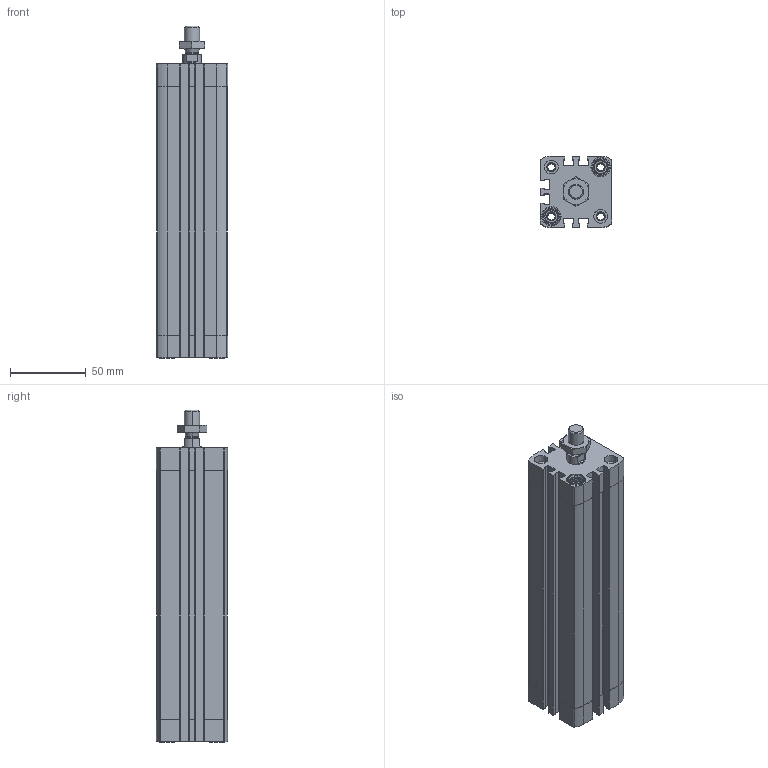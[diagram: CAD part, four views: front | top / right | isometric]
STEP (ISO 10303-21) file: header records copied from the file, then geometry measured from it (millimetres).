
FILE_DESCRIPTION (( 'STEP AP203' ), '1' );
FILE_NAME ('CCN32-150M.STEP', '2017-03-29T13:28:36', ( '' ), ( '' ), 'SwSTEP 2.0', 'SolidWorks 2016', '' );
FILE_SCHEMA (( 'CONFIG_CONTROL_DESIGN' ));
Length unit declared in the file: millimetre
Products named in the file (4): CCN-150---(Z); CCN-150_(KS); _DIN-439-B - M10x1.25(F); CCN32-150M
Assembly tree (3 placements, depth 2):
  CCN32-150M
    CCN-150---(Z)
    CCN-150_(KS)
    _DIN-439-B - M10x1.25(F)
Bounding box: 47 x 47 x 219 mm (x, y, z)
Volume: 250815.8 mm3; surface area: 99695.9 mm2
Topology: 3 solids, 3 shells, 499 faces, 1338 edges, 876 vertices
Faces by surface type: plane 275, cylinder 172, cone 48, bspline 4
Entity records: 16286 total; most frequent: CARTESIAN_POINT 3127, DIRECTION 2728, ORIENTED_EDGE 2676, EDGE_CURVE 1338, AXIS2_PLACEMENT_3D 1001, VERTEX_POINT 876, LINE 726, VECTOR 726
